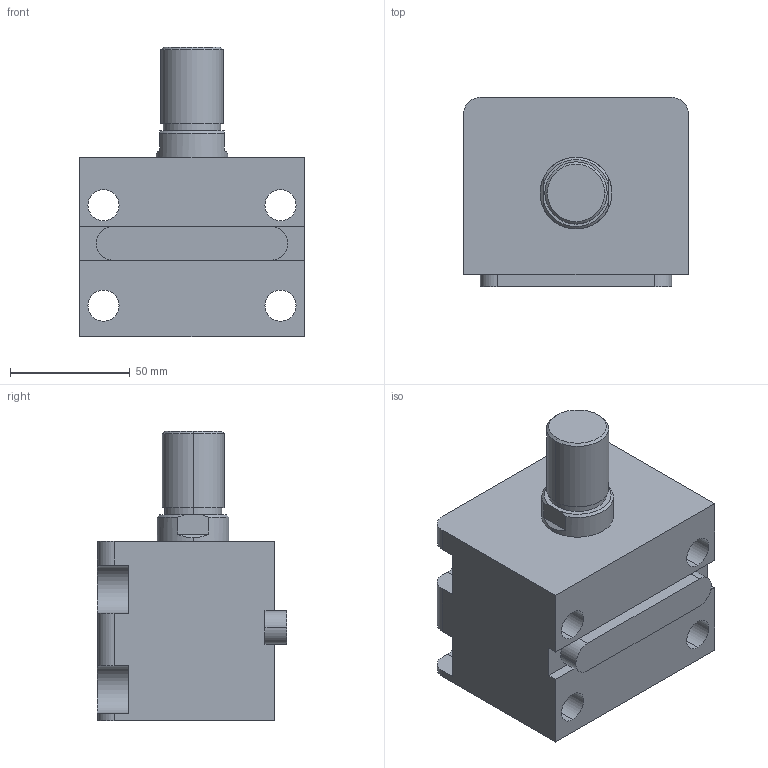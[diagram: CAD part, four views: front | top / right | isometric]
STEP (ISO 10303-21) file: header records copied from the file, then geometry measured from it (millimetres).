
FILE_DESCRIPTION (( 'STEP AP203' ), '1' );
FILE_NAME ('HTB-LA50-15W.STEP', '2019-10-09T07:07:20', ( '微软用户' ), ( '微软中国' ), 'SwSTEP 2.0', 'SolidWorks 2012', '' );
FILE_SCHEMA (( 'CONFIG_CONTROL_DESIGN' ));
Length unit declared in the file: millimetre
Products named in the file (4): HTB-LA50-15掛极; HTB-LA50-15W活塞杆; HTB-LA50-瑩; HTB-LA50-15W
Assembly tree (3 placements, depth 2):
  HTB-LA50-15W
    HTB-LA50-15掛极
    HTB-LA50-15W活塞杆
    HTB-LA50-瑩
Bounding box: 94 x 79 x 121 mm (x, y, z)
Volume: 478790.2 mm3; surface area: 80554.5 mm2
Topology: 3 solids, 3 shells, 90 faces, 219 edges, 144 vertices
Faces by surface type: plane 41, cylinder 37, cone 8, torus 4
Entity records: 3107 total; most frequent: DIRECTION 497, CARTESIAN_POINT 487, ORIENTED_EDGE 438, EDGE_CURVE 219, AXIS2_PLACEMENT_3D 190, VERTEX_POINT 144, VECTOR 117, LINE 117
